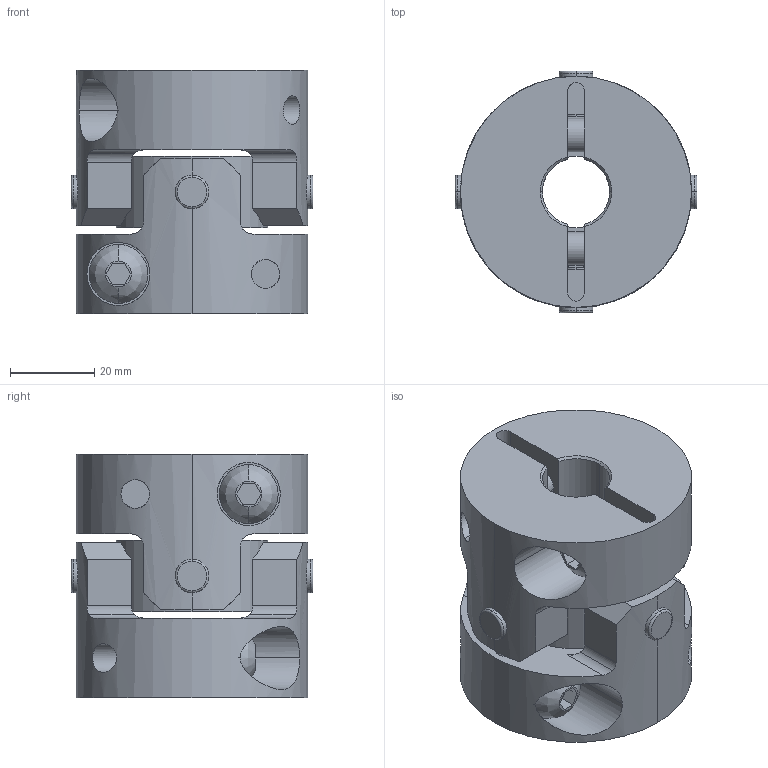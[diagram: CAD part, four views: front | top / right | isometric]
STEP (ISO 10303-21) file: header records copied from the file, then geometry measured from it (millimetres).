
FILE_DESCRIPTION((''),'2;1');
FILE_NAME('UA-55C-16×19.stp','2013-05-22T14:01:44',(''),(''),'AutoCAD STEP 2000i','AutoCAD 2000i',', , ');
FILE_SCHEMA(('CONFIG_CONTROL_DESIGN'));
Length unit declared in the file: millimetre
Products named in the file (7): UA-55C-10×18; 忣兜1; UA-5502-D18; BTN-M8; UA-5502-D10-1; UA-5502-D10; UA55-SEN
Assembly tree (8 placements, depth 3):
  UA-55C-10×18
    忣兜1
    UA-5502-D18
      BTN-M8
    UA-5502-D10-1
      BTN-M8
    UA-5502-D10
      BTN-M8
    UA55-SEN
Bounding box: 57.55 x 57.55 x 58 mm (x, y, z)
Volume: 98041.7 mm3; surface area: 31161.7 mm2
Topology: 1 solids, 1 shells, 206 faces, 554 edges, 364 vertices
Faces by surface type: cylinder 96, plane 78, cone 16, bspline 8, torus 8
Entity records: 8407 total; most frequent: CARTESIAN_POINT 3071, ORIENTED_EDGE 1108, DIRECTION 1068, EDGE_CURVE 554, AXIS2_PLACEMENT_3D 411, VERTEX_POINT 364, VECTOR 246, LINE 246
